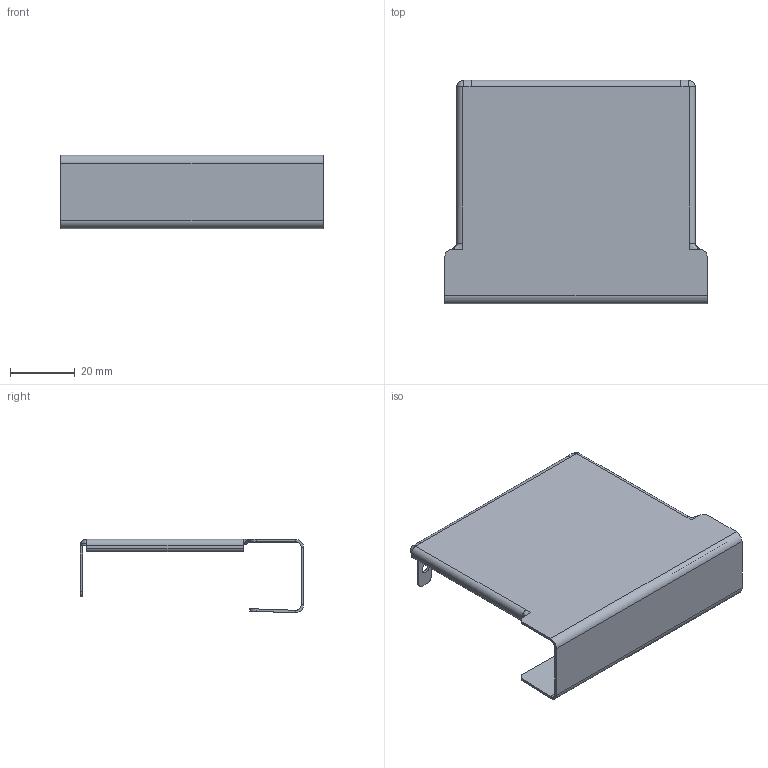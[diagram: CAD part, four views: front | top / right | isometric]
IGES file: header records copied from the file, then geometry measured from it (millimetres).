
Start section:  PTC IGES file: cu_crio_mod_blank_cover_only.igs
Global section: file name: cu_crio_mod_blank_cover_only.igs; native system: Creo Parametric by PTC Inc.; preprocessor: 2015380; author: dkendric; organization: Unknown; date: 20160608.163017; units: inch
Bounding box: 80.75 x 68.83 x 22.64 mm (x, y, z)
Surface area: 28121.7 mm2 (no closed solid volume)
Topology: 0 solids, 0 shells, 180 faces, 812 edges, 808 vertices
Faces by surface type: bspline 132, revolution 48
